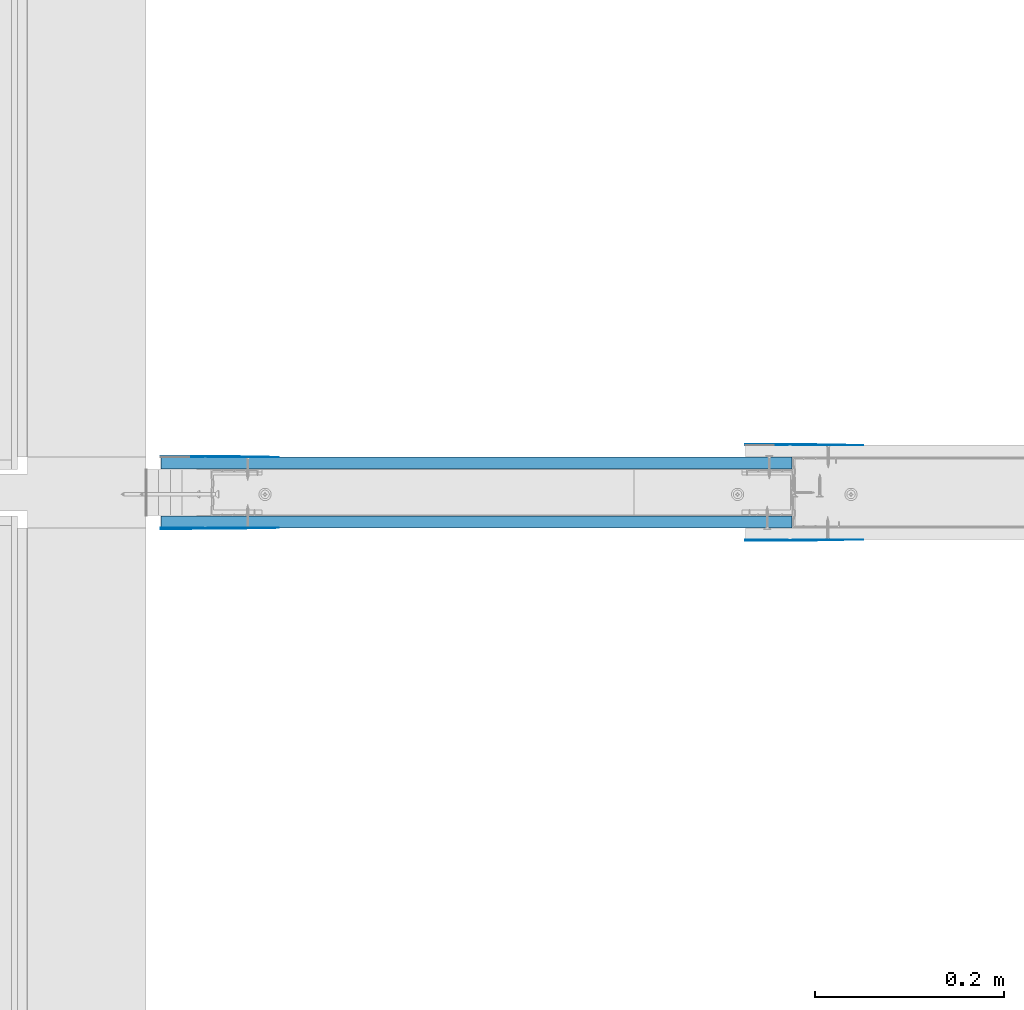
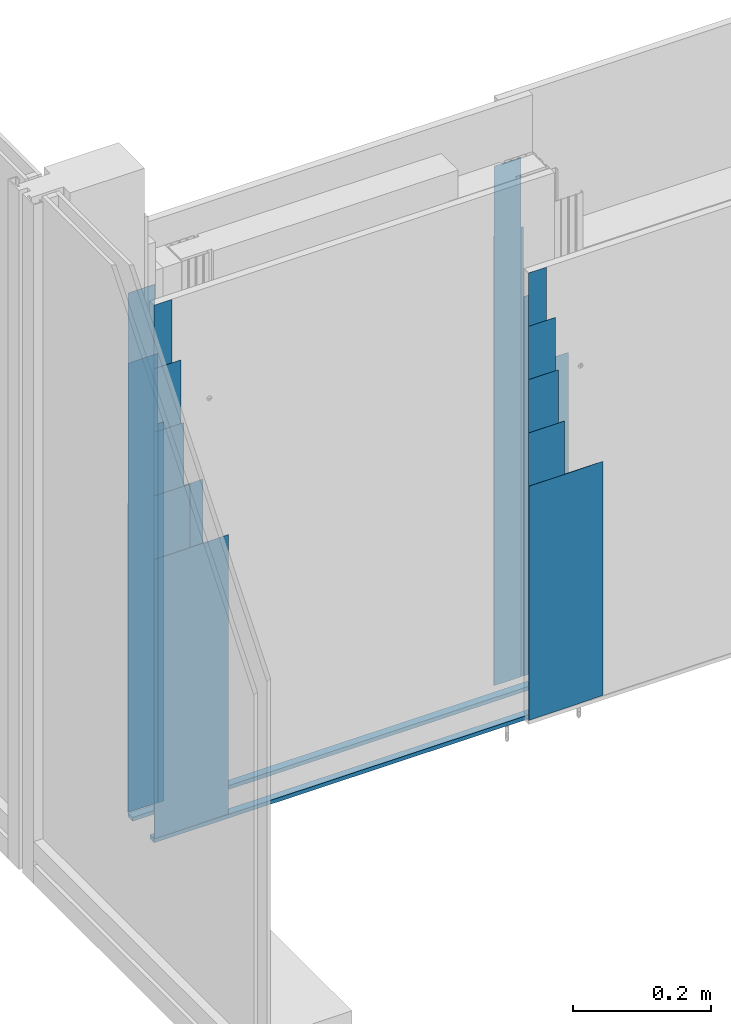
# One storey, part 5 of 42: 20 walls.
"""IFC2X3 building model written with IfcOpenShell, lengths in millimetres."""

from ifc_helpers import new_model, entity, si_unit, converted_unit, direction, frame, origin, origin_with_axes, place, context, project, spatial, faceted_brep, element, save


model = new_model("IFC2X3")

# Units and contexts
model_context = context("Model", 3, precision=1e-05, world=origin(), true_north=direction((0.0, 1.0, 0.0)))
ifc_project = project(units=[si_unit("LENGTHUNIT", "METRE", prefix="MILLI"), si_unit("AREAUNIT", "SQUARE_METRE"), si_unit("VOLUMEUNIT", "CUBIC_METRE"), converted_unit("PLANEANGLEUNIT", "DEGREE", entity("IfcPlaneAngleMeasure", 0.01745), si_unit("PLANEANGLEUNIT", "RADIAN"), dimensions=[0, 0, 0, 0, 0, 0, 0]), si_unit("SOLIDANGLEUNIT", "STERADIAN"), si_unit("MASSUNIT", "GRAM"), si_unit("TIMEUNIT", "SECOND"), si_unit("THERMODYNAMICTEMPERATUREUNIT", "DEGREE_CELSIUS"), si_unit("LUMINOUSINTENSITYUNIT", "LUMEN")], contexts=[model_context])

# Site, building, storey
site_placement = place(None, origin_with_axes())
site = spatial("IfcSite", under=ifc_project, at=site_placement, Name="Default Site", CompositionType="ELEMENT")
building_placement = place(site_placement, origin_with_axes())
building = spatial("IfcBuilding", under=site, at=building_placement, Name="Default Building", CompositionType="ELEMENT")
storey_placement = place(building_placement, origin_with_axes())
storey = spatial("IfcBuildingStorey", under=building, at=storey_placement, Name="Default Building Storey", CompositionType="ELEMENT", Elevation=0.0)

# Walls
for number, where, z_axis, x_axis, name in (
    (1, (3427.178286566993, 1981.706788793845, 6.305888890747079), (0.0, 0.0, 1.0), (1.0, 0.0, 0.0), "Dedykowana masa szpachlowa Rigips - konstrukcyjna"),
    (2, (3427.178286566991, 2044.206788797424, 6.305888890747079), (0.0, 0.0, 1.0), (1.0, 0.0, 0.0), "Dedykowana masa szpachlowa Rigips - konstrukcyjna"),
):
    element("IfcWall", number, at=place(storey_placement, frame(where, z_axis=z_axis, x_axis=x_axis)), inside=storey, Name=name, context=model_context, shape_type="Brep", body=[
        faceted_brep([(-1100.734885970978, -1.999999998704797, -4.062973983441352), (-1100.734885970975, 10.50000000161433, -4.062973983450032), (-432.9471902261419, 10.50000000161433, -4.064225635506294), (-432.9471902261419, -1.999999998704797, -4.064225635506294), (-432.9471902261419, -1.999999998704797, 2.800000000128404), (-1100.734911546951, -1.999999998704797, 2.799841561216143), (-432.9471902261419, 10.50000000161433, 2.800000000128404), (-1100.734911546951, 10.50000000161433, 2.799841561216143)], [[[0, 1, 2, 3]], [[3, 4, 5, 0]], [[4, 6, 7, 5]], [[6, 2, 1, 7]], [[7, 1, 0, 5]], [[2, 6, 4, 3]]]),
    ])
wall_1_placement = place(storey_placement, frame((2995.179152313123, 1967.045943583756, 706.1397482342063), z_axis=(-1.0, 0.0, 1.279069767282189e-15), x_axis=(1.446100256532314e-15, 0.0, 1.0)))
element("IfcWall", 3, at=wall_1_placement, inside=storey, Name="Dedykowana masa szpachlowa Rigips - konstrukcyjna", context=model_context, shape_type="Brep", body=[
    faceted_brep([(94.04764289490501, 0.0, 19.99999999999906), (-695.9557224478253, 0.0, 19.99999999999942), (-695.9557224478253, 0.1999999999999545, 19.99999999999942), (94.04764289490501, 0.1999999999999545, 19.99999999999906), (94.04764289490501, 0.0, 49.99999999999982), (94.04764289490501, 0.1999999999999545, 49.99999999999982), (-695.9557224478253, 0.0, 50.00000000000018), (-695.9557224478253, 0.1999999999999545, 50.00000000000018)], [[[0, 1, 2, 3]], [[4, 0, 3, 5]], [[6, 4, 5, 7]], [[1, 6, 7, 2]], [[2, 7, 5, 3]], [[6, 1, 0, 4]]]),
])
wall_2_placement = place(storey_placement, frame((2232.419935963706, 5356.302665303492, 280.0384940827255), z_axis=(-1.318730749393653e-13, 1.146955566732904e-13, 1.0), x_axis=(-1.0, -6.938893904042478e-16, -1.166411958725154e-13)))
element("IfcWall", 4, at=wall_2_placement, inside=storey, Name="Dedykowana masa szpachlowa Rigips - konstrukcyjna", context=model_context, shape_type="Brep", body=[
    faceted_brep([(-762.459216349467, 3389.656721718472, -269.8544682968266), (-762.4592163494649, 3389.656721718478, 238.0059683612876), (-762.4592163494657, 3388.956721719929, 238.0059683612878), (-762.4592163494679, 3388.956721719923, -269.8544682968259), (-772.4592163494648, 3388.956721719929, 238.0059683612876), (-772.4592163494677, 3388.956721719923, -269.8544682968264), (-712.459216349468, 3389.65672171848, 238.0059683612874), (-712.4592163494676, 3389.856721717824, 238.0059683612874), (-772.4592163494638, 3389.856721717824, 238.0059683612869), (-712.4592163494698, 3389.856721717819, -269.8544682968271), (-712.4592163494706, 3389.656721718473, -269.8544682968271), (-772.4592163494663, 3389.856721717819, -269.8544682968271)], [[[0, 1, 2, 3]], [[2, 4, 5, 3]], [[6, 7, 8, 4, 2, 1]], [[9, 10, 0, 3, 5, 11]], [[0, 10, 6, 1]], [[4, 8, 11, 5]], [[11, 8, 7, 9]], [[9, 7, 6, 10]]]),
])
wall_3_placement = place(storey_placement, frame((2232.41993596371, 5356.702665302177, 249.1773503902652), z_axis=(-1.318730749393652e-13, 1.146955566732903e-13, 1.0), x_axis=(-1.0, -6.938893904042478e-16, -1.166411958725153e-13)))
element("IfcWall", 5, at=wall_3_placement, inside=storey, Name="Dedykowana masa szpachlowa Rigips - konstrukcyjna", context=model_context, shape_type="Brep", body=[
    faceted_brep([(-742.4592163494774, 3389.556721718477, -238.9933246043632), (-742.4592163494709, 3389.556721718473, 456.9623978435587), (-742.4592163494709, 3389.356721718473, 456.9623978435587), (-742.4592163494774, 3389.356721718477, -238.9933246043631), (-757.4592163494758, 3389.356721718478, -238.9933246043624), (-757.4592163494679, 3389.356721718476, 456.962397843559), (-712.4592163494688, 3389.556721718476, 456.9623978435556), (-712.4592163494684, 3389.856721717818, 456.9623978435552), (-757.4592163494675, 3389.856721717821, 456.9623978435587), (-712.4592163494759, 3389.856721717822, -238.9933246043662), (-712.4592163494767, 3389.556721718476, -238.9933246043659), (-757.4592163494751, 3389.856721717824, -238.9933246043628)], [[[0, 1, 2, 3]], [[4, 3, 2, 5]], [[6, 7, 8, 5, 2, 1]], [[9, 10, 0, 3, 4, 11]], [[6, 1, 0, 10]], [[11, 4, 5, 8]], [[11, 8, 7, 9]], [[9, 7, 6, 10]]]),
])
wall_4_placement = place(storey_placement, frame((2232.419935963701, 5356.502665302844, 327.9673646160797), z_axis=(-1.318730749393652e-13, 1.150380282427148e-13, 1.0), x_axis=(-1.0, -6.938893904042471e-16, -1.166411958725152e-13)))
element("IfcWall", 6, at=wall_4_placement, inside=storey, Name="Taśma spoinowa RIGIPS", context=model_context, shape_type="Brep", body=[
    faceted_brep([(-712.4592163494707, 3389.656721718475, 284.1247407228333), (-712.4592163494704, 3389.856721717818, 284.1247407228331), (-762.4592163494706, 3389.856721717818, 284.1247407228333), (-762.4592163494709, 3389.656721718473, 284.1247407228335), (-712.4592163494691, 3389.856721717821, -317.783338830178), (-712.4592163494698, 3389.656721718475, -317.7833388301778), (-762.45921634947, 3389.656721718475, -317.7833388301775), (-762.4592163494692, 3389.856721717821, -317.7833388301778)], [[[0, 1, 2, 3]], [[4, 5, 6, 7]], [[5, 0, 3, 6]], [[6, 3, 2, 7]], [[7, 2, 1, 4]], [[4, 1, 0, 5]]]),
])
wall_5_placement = place(storey_placement, frame((2207.419935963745, 5357.602665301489, 3.814417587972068), z_axis=(-1.321386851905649e-13, 1.150497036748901e-13, 1.0), x_axis=(-1.0, -3.608224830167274e-16, -1.168761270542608e-13)))
element("IfcWall", 7, at=wall_5_placement, inside=storey, Name="Dedykowana masa szpachlowa Rigips - wykończeniowa", context=model_context, shape_type="Brep", body=[
    faceted_brep([(-762.4602403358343, 3391.516720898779, 420.1824019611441), (-762.4602403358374, 3391.516720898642, 6.369608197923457), (-812.4612643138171, 3391.196716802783, 6.369608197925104), (-812.461264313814, 3391.19671680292, 420.1824019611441), (-797.4592163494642, 3391.156721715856, 6.369608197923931), (-797.4592163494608, 3391.156721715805, 420.1824019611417), (-797.4592163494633, 3390.756721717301, 420.1824019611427), (-797.4592163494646, 3390.75672171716, 6.369608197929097), (-737.4592163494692, 3391.516720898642, 6.369608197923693), (-737.4592163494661, 3391.516720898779, 420.1824019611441), (-862.459216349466, 3390.256721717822, 6.369608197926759), (-862.4592163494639, 3390.256721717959, 420.1824019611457), (-737.4592163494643, 3391.156721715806, 420.1824019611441), (-797.4592163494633, 3390.256721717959, 420.1824019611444), (-737.4592163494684, 3391.156721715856, 6.369608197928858), (-797.459216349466, 3390.256721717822, 6.36960819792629)], [[[0, 1, 2, 3]], [[4, 5, 6, 7]], [[8, 1, 0, 9]], [[10, 11, 3, 2]], [[12, 9, 0, 3, 11, 13, 6, 5]], [[14, 8, 9, 12]], [[13, 11, 10, 15]], [[13, 15, 7, 6]], [[14, 12, 5, 4]], [[4, 7, 15, 10, 2, 1, 8, 14]]]),
])
wall_6_placement = place(storey_placement, frame((2376.443362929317, 1979.52266182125, 840.1957124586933), z_axis=(-1.0, 0.0, 1.525787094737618e-15), x_axis=(1.2122681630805e-15, 0.0, 1.0)))
element("IfcWall", 8, at=wall_6_placement, inside=storey, Name="Dedykowana masa szpachlowa Rigips - konstrukcyjna", context=model_context, shape_type="Brep", body=[
    faceted_brep([(112.1883133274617, 0.0, 19.99999999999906), (-830.1972941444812, 0.0, 19.99999999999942), (-830.1972941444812, 0.1841269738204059, 19.99999999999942), (112.1883133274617, 0.1841269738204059, 19.99999999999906), (112.1883133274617, 0.0, 49.99999999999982), (112.1883133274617, 0.1841269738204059, 49.99999999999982), (-830.1972941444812, 0.0, 50.00000000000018), (-830.1972941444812, 0.1841269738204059, 50.00000000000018)], [[[0, 1, 2, 3]], [[4, 0, 3, 5]], [[6, 4, 5, 7]], [[1, 6, 7, 2]], [[2, 7, 5, 3]], [[6, 1, 0, 4]]]),
])
wall_7_placement = place(storey_placement, frame((1613.6841465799, 5099.698516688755, 331.9046002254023), z_axis=(-1.105494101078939e-13, 8.851855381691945e-14, 1.0), x_axis=(-1.0, -6.388187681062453e-16, -1.391398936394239e-13)))
element("IfcWall", 9, at=wall_7_placement, inside=storey, Name="Dedykowana masa szpachlowa Rigips - konstrukcyjna", context=model_context, shape_type="Brep", body=[
    faceted_brep([(-762.4592163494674, 3120.63617230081, -321.9061819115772), (-762.4592163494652, 3120.636172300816, 283.9144855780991), (-762.459216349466, 3119.99172789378, 283.9144855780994), (-762.4592163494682, 3119.991727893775, -321.9061819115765), (-772.4592163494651, 3119.99172789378, 283.9144855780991), (-772.4592163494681, 3119.991727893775, -321.9061819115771), (-712.4592163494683, 3120.636172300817, 283.9144855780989), (-712.459216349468, 3120.820299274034, 283.9144855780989), (-772.4592163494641, 3120.820299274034, 283.9144855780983), (-712.4592163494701, 3120.82029927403, -321.9061819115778), (-712.4592163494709, 3120.636172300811, -321.9061819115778), (-772.4592163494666, 3120.82029927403, -321.9061819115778)], [[[0, 1, 2, 3]], [[2, 4, 5, 3]], [[6, 7, 8, 4, 2, 1]], [[9, 10, 0, 3, 5, 11]], [[0, 10, 6, 1]], [[4, 8, 11, 5]], [[11, 8, 7, 9]], [[9, 7, 6, 10]]]),
])
wall_8_placement = place(storey_placement, frame((1613.684146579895, 5099.882643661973, 389.0783791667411), z_axis=(-1.105494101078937e-13, 8.878286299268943e-14, 1.0), x_axis=(-1.0, -6.388187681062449e-16, -1.391398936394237e-13)))
element("IfcWall", 10, at=wall_8_placement, inside=storey, Name="Taśma spoinowa RIGIPS", context=model_context, shape_type="Brep", body=[
    faceted_brep([(-712.459216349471, 3120.636172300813, 338.9290199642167), (-712.4592163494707, 3120.820299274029, 338.9290199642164), (-762.4592163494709, 3120.820299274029, 338.9290199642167), (-762.4592163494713, 3120.636172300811, 338.929019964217), (-712.4592163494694, 3120.820299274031, -379.0799608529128), (-712.4592163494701, 3120.636172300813, -379.0799608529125), (-762.4592163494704, 3120.636172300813, -379.0799608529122), (-762.4592163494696, 3120.820299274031, -379.0799608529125)], [[[0, 1, 2, 3]], [[4, 5, 6, 7]], [[5, 0, 3, 6]], [[6, 3, 2, 7]], [[7, 2, 1, 4]], [[4, 1, 0, 5]]]),
])
wall_9_placement = place(storey_placement, frame((1588.684146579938, 5100.895342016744, 2.400188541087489), z_axis=(-1.107720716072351e-13, 8.879187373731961e-14, 1.0), x_axis=(-1.0, -3.321857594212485e-16, -1.394201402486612e-13)))
element("IfcWall", 11, at=wall_9_placement, inside=storey, Name="Dedykowana masa szpachlowa Rigips - wykończeniowa", context=model_context, shape_type="Brep", body=[
    faceted_brep([(-762.4602403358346, 3122.348552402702, 501.2305839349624), (-762.4602403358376, 3122.348552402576, 7.598229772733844), (-812.4612643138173, 3122.053945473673, 7.598229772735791), (-812.4612643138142, 3122.053945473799, 501.2305839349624), (-797.4592163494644, 3122.017124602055, 7.59822977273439), (-797.459216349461, 3122.017124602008, 501.2305839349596), (-797.4592163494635, 3121.648870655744, 501.2305839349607), (-797.4592163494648, 3121.648870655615, 7.59822977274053), (-737.4592163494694, 3122.348552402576, 7.598229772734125), (-737.4592163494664, 3122.348552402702, 501.2305839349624), (-862.4592163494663, 3121.188553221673, 7.598229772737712), (-862.4592163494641, 3121.188553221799, 501.2305839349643), (-737.4592163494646, 3122.01712460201, 501.2305839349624), (-797.4592163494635, 3121.188553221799, 501.2305839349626), (-737.4592163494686, 3122.017124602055, 7.598229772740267), (-797.4592163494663, 3121.188553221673, 7.598229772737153)], [[[0, 1, 2, 3]], [[4, 5, 6, 7]], [[8, 1, 0, 9]], [[10, 11, 3, 2]], [[12, 9, 0, 3, 11, 13, 6, 5]], [[14, 8, 9, 12]], [[13, 11, 10, 15]], [[13, 15, 7, 6]], [[14, 12, 5, 4]], [[4, 7, 15, 10, 2, 1, 8, 14]]]),
])
wall_10_placement = place(storey_placement, frame((1613.684146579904, 5100.066770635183, 295.0907093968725), z_axis=(-1.105494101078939e-13, 8.851855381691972e-14, 1.0), x_axis=(-1.0, -6.388187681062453e-16, -1.391398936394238e-13)))
element("IfcWall", 12, at=wall_10_placement, inside=storey, Name="Dedykowana masa szpachlowa Rigips - konstrukcyjna", context=model_context, shape_type="Brep", body=[
    faceted_brep([(-742.4592163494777, 3120.544108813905, -285.0922910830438), (-742.4592163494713, 3120.5441088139, 545.1050030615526), (-742.4592163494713, 3120.35998184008, 545.1050030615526), (-742.4592163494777, 3120.359981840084, -285.0922910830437), (-757.4592163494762, 3120.359981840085, -285.0922910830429), (-757.4592163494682, 3120.359981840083, 545.1050030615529), (-712.4592163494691, 3120.544108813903, 545.1050030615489), (-712.4592163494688, 3120.820299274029, 545.1050030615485), (-757.4592163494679, 3120.820299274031, 545.1050030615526), (-712.4592163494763, 3120.820299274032, -285.0922910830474), (-712.4592163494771, 3120.544108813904, -285.092291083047), (-757.4592163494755, 3120.820299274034, -285.0922910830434)], [[[0, 1, 2, 3]], [[4, 3, 2, 5]], [[6, 7, 8, 5, 2, 1]], [[9, 10, 0, 3, 4, 11]], [[6, 1, 0, 10]], [[11, 4, 5, 8]], [[11, 8, 7, 9]], [[9, 7, 6, 10]]]),
])
wall_11_placement = place(storey_placement, frame((1588.684146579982, -1066.57382790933, 1.593912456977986), z_axis=(-1.001452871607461e-13, -8.027373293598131e-14, 1.0), x_axis=(-1.0, 3.321857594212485e-16, -1.542145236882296e-13)))
element("IfcWall", 13, at=wall_11_placement, inside=storey, Name="Dedykowana masa szpachlowa Rigips - wykończeniowa", context=model_context, shape_type="Brep", body=[
    faceted_brep([(-762.4602403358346, -3122.348552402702, 554.4180031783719), (-762.4602403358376, -3122.348552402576, 8.404505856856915), (-812.4612643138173, -3122.053945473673, 8.404505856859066), (-812.4612643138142, -3122.053945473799, 554.4180031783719), (-797.4592163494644, -3122.017124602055, 8.404505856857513), (-797.459216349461, -3122.017124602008, 554.4180031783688), (-797.4592163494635, -3121.648870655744, 554.41800317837), (-797.4592163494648, -3121.648870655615, 8.4045058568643), (-737.4592163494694, -3122.348552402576, 8.404505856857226), (-737.4592163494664, -3122.348552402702, 554.4180031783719), (-862.4592163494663, -3121.188553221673, 8.404505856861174), (-862.4592163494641, -3121.188553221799, 554.418003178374), (-737.4592163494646, -3122.01712460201, 554.4180031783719), (-797.4592163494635, -3121.188553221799, 554.4180031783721), (-737.4592163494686, -3122.017124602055, 8.404505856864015), (-797.4592163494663, -3121.188553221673, 8.404505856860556)], [[[0, 1, 2, 3]], [[4, 5, 6, 7]], [[8, 1, 0, 9]], [[10, 11, 3, 2]], [[12, 9, 0, 3, 11, 13, 6, 5]], [[14, 8, 9, 12]], [[13, 11, 10, 15]], [[13, 15, 7, 6]], [[14, 12, 5, 4]], [[4, 7, 15, 10, 2, 1, 8, 14]]]),
])
wall_12_placement = place(storey_placement, frame((1613.684146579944, -1065.377002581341, 366.0632481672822), z_axis=(-9.994398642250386e-14, -8.002663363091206e-14, 1.0), x_axis=(-1.0, 6.388187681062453e-16, -1.539045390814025e-13)))
element("IfcWall", 14, at=wall_12_placement, inside=storey, Name="Dedykowana masa szpachlowa Rigips - konstrukcyjna", context=model_context, shape_type="Brep", body=[
    faceted_brep([(-762.4592163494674, -3120.63617230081, -356.0648298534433), (-762.4592163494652, -3120.636172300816, 314.0416950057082), (-762.459216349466, -3119.99172789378, 314.0416950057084), (-762.4592163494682, -3119.991727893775, -356.0648298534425), (-772.4592163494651, -3119.99172789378, 314.0416950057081), (-772.4592163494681, -3119.991727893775, -356.064829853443), (-712.4592163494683, -3120.636172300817, 314.0416950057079), (-712.459216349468, -3120.820299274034, 314.0416950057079), (-772.4592163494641, -3120.820299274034, 314.0416950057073), (-712.4592163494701, -3120.82029927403, -356.0648298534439), (-712.4592163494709, -3120.636172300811, -356.0648298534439), (-772.4592163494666, -3120.82029927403, -356.0648298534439)], [[[0, 1, 2, 3]], [[2, 4, 5, 3]], [[6, 7, 8, 4, 2, 1]], [[9, 10, 0, 3, 5, 11]], [[0, 10, 6, 1]], [[4, 8, 11, 5]], [[11, 8, 7, 9]], [[9, 7, 6, 10]]]),
])
wall_13_placement = place(storey_placement, frame((1613.684146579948, -1065.74525652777, 325.342900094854), z_axis=(-9.994398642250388e-14, -8.002663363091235e-14, 1.0), x_axis=(-1.0, 6.388187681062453e-16, -1.539045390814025e-13)))
element("IfcWall", 15, at=wall_13_placement, inside=storey, Name="Dedykowana masa szpachlowa Rigips - konstrukcyjna", context=model_context, shape_type="Brep", body=[
    faceted_brep([(-742.4592163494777, -3120.544108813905, -315.344481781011), (-742.4592163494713, -3120.5441088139, 602.9480981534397), (-742.4592163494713, -3120.35998184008, 602.9480981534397), (-742.4592163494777, -3120.359981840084, -315.344481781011), (-757.4592163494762, -3120.359981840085, -315.3444817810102), (-757.4592163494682, -3120.359981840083, 602.94809815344), (-712.4592163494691, -3120.544108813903, 602.9480981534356), (-712.4592163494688, -3120.820299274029, 602.9480981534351), (-757.4592163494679, -3120.820299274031, 602.9480981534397), (-712.4592163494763, -3120.820299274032, -315.3444817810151), (-712.4592163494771, -3120.544108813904, -315.3444817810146), (-757.4592163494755, -3120.820299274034, -315.3444817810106)], [[[0, 1, 2, 3]], [[4, 3, 2, 5]], [[6, 7, 8, 5, 2, 1]], [[9, 10, 0, 3, 4, 11]], [[6, 1, 0, 10]], [[11, 4, 5, 8]], [[11, 8, 7, 9]], [[9, 7, 6, 10]]]),
])
wall_14_placement = place(storey_placement, frame((1613.684146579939, -1065.561129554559, 429.3039469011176), z_axis=(-9.994398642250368e-14, -8.026558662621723e-14, 1.0), x_axis=(-1.0, 6.388187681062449e-16, -1.539045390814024e-13)))
element("IfcWall", 16, at=wall_14_placement, inside=storey, Name="Taśma spoinowa RIGIPS", context=model_context, shape_type="Brep", body=[
    faceted_brep([(-712.459216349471, -3120.636172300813, 374.8940238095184), (-712.4592163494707, -3120.820299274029, 374.8940238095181), (-762.4592163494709, -3120.820299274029, 374.8940238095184), (-762.4592163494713, -3120.636172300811, 374.8940238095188), (-712.4592163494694, -3120.820299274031, -419.3055285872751), (-712.4592163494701, -3120.636172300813, -419.3055285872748), (-762.4592163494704, -3120.636172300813, -419.3055285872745), (-762.4592163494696, -3120.820299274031, -419.3055285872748)], [[[0, 1, 2, 3]], [[4, 5, 6, 7]], [[5, 0, 3, 6]], [[6, 3, 2, 7]], [[7, 2, 1, 4]], [[4, 1, 0, 5]]]),
])
wall_15_placement = place(storey_placement, frame((2232.41993596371, -1052.83784779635, 366.0632481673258), z_axis=(-9.994398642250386e-14, -8.002663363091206e-14, 1.0), x_axis=(-1.0, 6.388187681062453e-16, -1.539045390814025e-13)))
element("IfcWall", 17, at=wall_15_placement, inside=storey, Name="Dedykowana masa szpachlowa Rigips - konstrukcyjna", context=model_context, shape_type="Brep", body=[
    faceted_brep([(-762.4592163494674, -3120.63617230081, -356.0648298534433), (-762.4592163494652, -3120.636172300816, 314.0416950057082), (-762.459216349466, -3119.99172789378, 314.0416950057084), (-762.4592163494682, -3119.991727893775, -356.0648298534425), (-772.4592163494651, -3119.99172789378, 314.0416950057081), (-772.4592163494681, -3119.991727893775, -356.064829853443), (-712.4592163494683, -3120.636172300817, 314.0416950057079), (-712.459216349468, -3120.820299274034, 314.0416950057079), (-772.4592163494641, -3120.820299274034, 314.0416950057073), (-712.4592163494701, -3120.82029927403, -356.0648298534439), (-712.4592163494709, -3120.636172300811, -356.0648298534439), (-772.4592163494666, -3120.82029927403, -356.0648298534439)], [[[0, 1, 2, 3]], [[2, 4, 5, 3]], [[6, 7, 8, 4, 2, 1]], [[9, 10, 0, 3, 5, 11]], [[0, 10, 6, 1]], [[4, 8, 11, 5]], [[11, 8, 7, 9]], [[9, 7, 6, 10]]]),
])
wall_16_placement = place(storey_placement, frame((2232.419935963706, -1053.021974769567, 429.3039469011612), z_axis=(-9.994398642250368e-14, -8.026558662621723e-14, 1.0), x_axis=(-1.0, 6.388187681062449e-16, -1.539045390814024e-13)))
element("IfcWall", 18, at=wall_16_placement, inside=storey, Name="Taśma spoinowa RIGIPS", context=model_context, shape_type="Brep", body=[
    faceted_brep([(-712.459216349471, -3120.636172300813, 374.8940238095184), (-712.4592163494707, -3120.820299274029, 374.8940238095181), (-762.4592163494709, -3120.820299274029, 374.8940238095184), (-762.4592163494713, -3120.636172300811, 374.8940238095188), (-712.4592163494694, -3120.820299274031, -419.3055285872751), (-712.4592163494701, -3120.636172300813, -419.3055285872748), (-762.4592163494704, -3120.636172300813, -419.3055285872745), (-762.4592163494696, -3120.820299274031, -419.3055285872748)], [[[0, 1, 2, 3]], [[4, 5, 6, 7]], [[5, 0, 3, 6]], [[6, 3, 2, 7]], [[7, 2, 1, 4]], [[4, 1, 0, 5]]]),
])
wall_17_placement = place(storey_placement, frame((2207.419935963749, -1054.034673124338, 1.593912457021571), z_axis=(-1.001452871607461e-13, -8.027373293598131e-14, 1.0), x_axis=(-1.0, 3.321857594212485e-16, -1.542145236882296e-13)))
element("IfcWall", 19, at=wall_17_placement, inside=storey, Name="Dedykowana masa szpachlowa Rigips - wykończeniowa", context=model_context, shape_type="Brep", body=[
    faceted_brep([(-762.4602403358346, -3122.348552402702, 554.4180031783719), (-762.4602403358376, -3122.348552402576, 8.404505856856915), (-812.4612643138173, -3122.053945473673, 8.404505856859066), (-812.4612643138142, -3122.053945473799, 554.4180031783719), (-797.4592163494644, -3122.017124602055, 8.404505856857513), (-797.459216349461, -3122.017124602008, 554.4180031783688), (-797.4592163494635, -3121.648870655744, 554.41800317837), (-797.4592163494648, -3121.648870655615, 8.4045058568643), (-737.4592163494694, -3122.348552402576, 8.404505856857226), (-737.4592163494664, -3122.348552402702, 554.4180031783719), (-862.4592163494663, -3121.188553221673, 8.404505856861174), (-862.4592163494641, -3121.188553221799, 554.418003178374), (-737.4592163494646, -3122.01712460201, 554.4180031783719), (-797.4592163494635, -3121.188553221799, 554.4180031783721), (-737.4592163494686, -3122.017124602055, 8.404505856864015), (-797.4592163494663, -3121.188553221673, 8.404505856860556)], [[[0, 1, 2, 3]], [[4, 5, 6, 7]], [[8, 1, 0, 9]], [[10, 11, 3, 2]], [[12, 9, 0, 3, 11, 13, 6, 5]], [[14, 8, 9, 12]], [[13, 11, 10, 15]], [[13, 15, 7, 6]], [[14, 12, 5, 4]], [[4, 7, 15, 10, 2, 1, 8, 14]]]),
])
wall_18_placement = place(storey_placement, frame((2232.419935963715, -1053.206101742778, 325.3429000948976), z_axis=(-9.994398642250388e-14, -8.002663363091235e-14, 1.0), x_axis=(-1.0, 6.388187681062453e-16, -1.539045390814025e-13)))
element("IfcWall", 20, at=wall_18_placement, inside=storey, Name="Dedykowana masa szpachlowa Rigips - konstrukcyjna", context=model_context, shape_type="Brep", body=[
    faceted_brep([(-742.4592163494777, -3120.544108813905, -315.344481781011), (-742.4592163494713, -3120.5441088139, 602.9480981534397), (-742.4592163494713, -3120.35998184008, 602.9480981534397), (-742.4592163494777, -3120.359981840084, -315.344481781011), (-757.4592163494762, -3120.359981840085, -315.3444817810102), (-757.4592163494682, -3120.359981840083, 602.94809815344), (-712.4592163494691, -3120.544108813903, 602.9480981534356), (-712.4592163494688, -3120.820299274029, 602.9480981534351), (-757.4592163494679, -3120.820299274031, 602.9480981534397), (-712.4592163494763, -3120.820299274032, -315.3444817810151), (-712.4592163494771, -3120.544108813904, -315.3444817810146), (-757.4592163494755, -3120.820299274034, -315.3444817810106)], [[[0, 1, 2, 3]], [[4, 3, 2, 5]], [[6, 7, 8, 5, 2, 1]], [[9, 10, 0, 3, 4, 11]], [[6, 1, 0, 10]], [[11, 4, 5, 8]], [[11, 8, 7, 9]], [[9, 7, 6, 10]]]),
])

save(model, "model.ifc")
